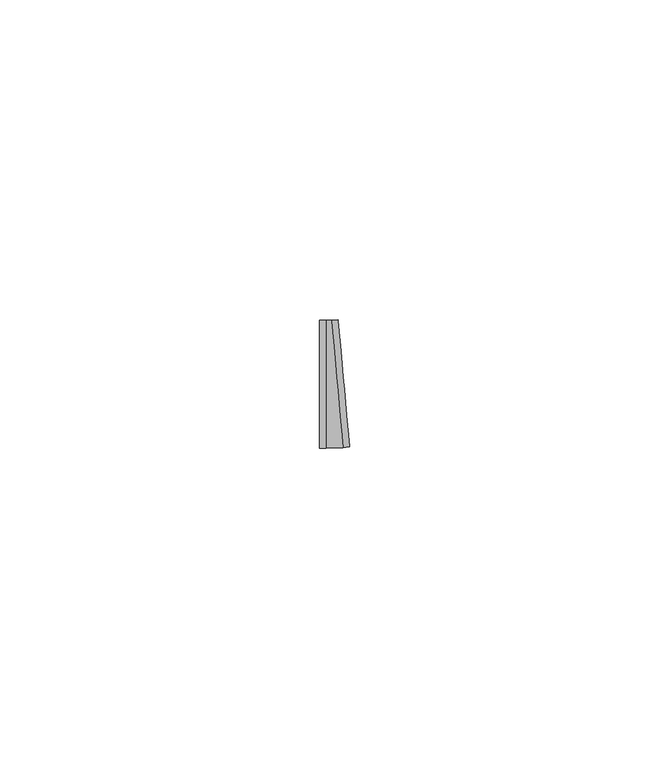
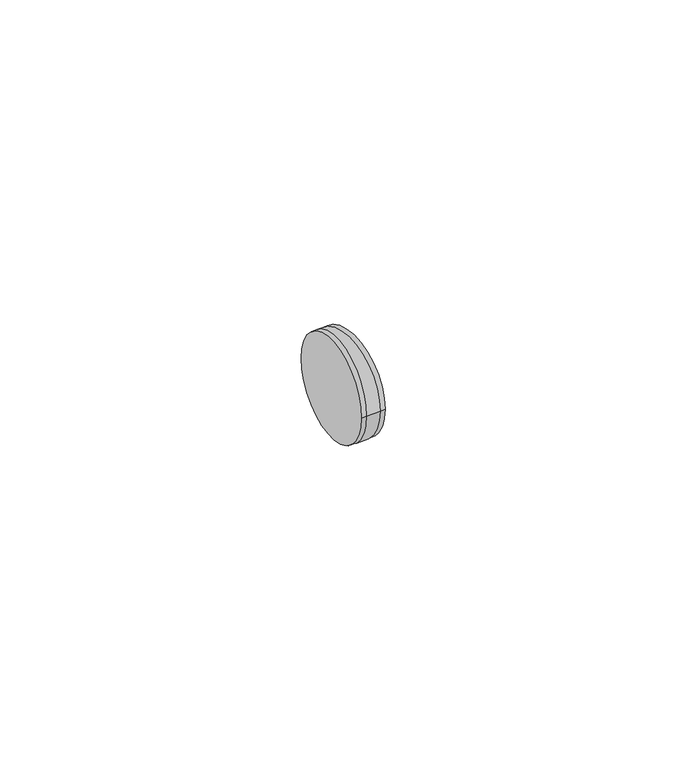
"""IFC4 building model written with IfcOpenShell, lengths in millimetres: cable carrier fitting geometry, ADSK_Поворот_Минимальный размер : Неспецифицируемый."""

from ifc_helpers import new_model, si_unit, point, frame, origin, place, context, project, spatial, circle_curve, ellipse_curve, trimmed, source, transform, mapped, element, save
from ifc_brep_helpers import plane_surface, cylinder_surface, revolved_surface, advanced_brep


def cable_carrier_fitting_ac595e77(model_context):
    return source(origin(), model_context, "Body", "AdvancedBrep", [
        advanced_brep(
        [(-1.9066002, -10.0, 0.0), (-1.9066002, 10.0, 0.0), (-0.9066002, -10.0, 0.0), (-0.9066002, 10.0, 0.0), (-0.0018591, 10.0410119, 0.0), (1.8076231, -9.8769642, 0.0), (2.8035219, -9.7864901, 0.0), (0.9940397, 10.131486, 0.0)],
        [
            (0, 1, circle_curve(frame((-1.9066002, 0.0, 0.0), z_axis=(-1.0, -4.92260399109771e-12, 0.0), x_axis=(-4.92260399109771e-12, 1.0, 0.0)), 10.0)),
            (1, 0, circle_curve(frame((-1.9066002, 0.0, 0.0), z_axis=(-1.0, -4.92260399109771e-12, 0.0), x_axis=(-4.92260399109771e-12, 1.0, 0.0)), 10.0)),
            (0, 2),
            (2, 3, circle_curve(frame((-0.9066002, 0.0, 0.0), z_axis=(-1.0, -4.92260399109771e-12, 0.0), x_axis=(-4.92260399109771e-12, 1.0, 0.0)), 10.0)),
            (3, 1),
            (3, 2, circle_curve(frame((-0.9066002, 0.0, 0.0), z_axis=(-1.0, -4.92260399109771e-12, 0.0), x_axis=(-4.92260399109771e-12, 1.0, 0.0)), 10.0)),
            (4, 3, circle_curve(frame((-0.9066002, 20.0, 0.0), z_axis=(0.0, 0.0, -1.0), x_axis=(0.0, -1.0, 0.0)), 10.0)),
            (2, 5, circle_curve(frame((-0.9066002, 20.0, 0.0), z_axis=(0.0, 0.0, 1.0), x_axis=(0.0, -1.0, 0.0)), 30.0)),
            (5, 4, circle_curve(frame((0.902882, 0.0820238, 0.0), z_axis=(-0.9958988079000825, -0.0904741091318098, 0.0), x_axis=(-0.0904741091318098, 0.9958988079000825, 0.0)), 10.0)),
            (4, 5, circle_curve(frame((0.902882, 0.0820238, 0.0), z_axis=(-0.9958988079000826, -0.09047410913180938, 0.0), x_axis=(-0.09047410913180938, 0.9958988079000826, 0.0)), 10.0)),
            (6, 7, circle_curve(frame((1.8987808, 0.172498, 0.0), z_axis=(0.9958988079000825, 0.09047410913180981, 0.0), x_axis=(-0.09047410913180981, 0.9958988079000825, 0.0)), 10.0)),
            (7, 6, circle_curve(frame((1.8987808, 0.172498, 0.0), z_axis=(0.9958988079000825, 0.09047410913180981, 0.0), x_axis=(-0.09047410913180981, 0.9958988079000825, 0.0)), 10.0)),
            (5, 6),
            (7, 4),
        ],
        [
            plane_surface(frame((-1.9066002, 0.0, 0.0), z_axis=(-1.0, -4.92260399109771e-12, 0.0), x_axis=(0.0, 0.0, 1.0))),
            cylinder_surface(frame((-1.9066002, 0.0, 0.0), z_axis=(-1.0, -4.92260399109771e-12, 0.0), x_axis=(-4.92260399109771e-12, 1.0, 0.0)), 10.0),
            revolved_surface(trimmed(ellipse_curve(frame((-0.9066002, 0.0, 0.0), z_axis=(-1.0, 0.0, 0.0), x_axis=(0.0, 1.0, 0.0)), 10.0, 10.0), [point((-0.9066002, -10.0, 0.0))], [point((-0.9066002, 10.0, 0.0))], True, "CARTESIAN"), (-0.9066002, 20.0, 0.0), (0.0, 0.0, 1.0)),
            revolved_surface(trimmed(ellipse_curve(frame((-0.9066002, 0.0, 0.0), z_axis=(-1.0, 0.0, 0.0), x_axis=(0.0, 1.0, 0.0)), 10.0, 10.0), [point((-0.9066002, 10.0, 0.0))], [point((-0.9066002, -10.0, 0.0))], True, "CARTESIAN"), (-0.9066002, 20.0, 0.0), (0.0, 0.0, 1.0)),
            plane_surface(frame((1.8987808, 0.172498, 0.0), z_axis=(0.9958988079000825, 0.09047410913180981, 0.0), x_axis=(0.0, 0.0, 1.0))),
            cylinder_surface(frame((0.902882, 0.0820238, 0.0), z_axis=(-0.9958988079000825, -0.09047410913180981, 0.0), x_axis=(-0.09047410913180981, 0.9958988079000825, 0.0)), 10.0),
        ],
        [
            (0, [[1, 2]]),
            (1, [[-1, 3, 4, 5]]),
            (1, [[-2, -5, 6, -3]]),
            (2, [[7, -4, 8, 9]]),
            (3, [[-8, -6, -7, 10]]),
            (4, [[11, 12]]),
            (5, [[-9, 13, -12, 14]]),
            (5, [[-10, -14, -11, -13]]),
        ],
    ),
    ])


if __name__ == "__main__":
    model = new_model("IFC4")
    model_context = context("Model", 3, world=origin())
    ifc_project = project(units=[si_unit("LENGTHUNIT", "METRE", prefix="MILLI")], contexts=[model_context])
    site = spatial("IfcSite", under=ifc_project)
    building = spatial("IfcBuilding", under=site)
    placement = place(None, origin())
    cable_carrier_fitting_shape = cable_carrier_fitting_ac595e77(model_context)
    element("IfcCableCarrierFitting", 1, ObjectType="ADSK_Поворот_Минимальный размер : Неспецифицируемый", at=placement, inside=building, context=model_context, shape_type="MappedRepresentation", body=[
        mapped(cable_carrier_fitting_shape, transform((0.0, 0.0, 0.0), x_axis=(1.0, 0.0, 0.0), y_axis=(0.0, 1.0, 0.0), z_axis=(0.0, 0.0, 1.0))),
    ])
    save(model, "model.ifc")
